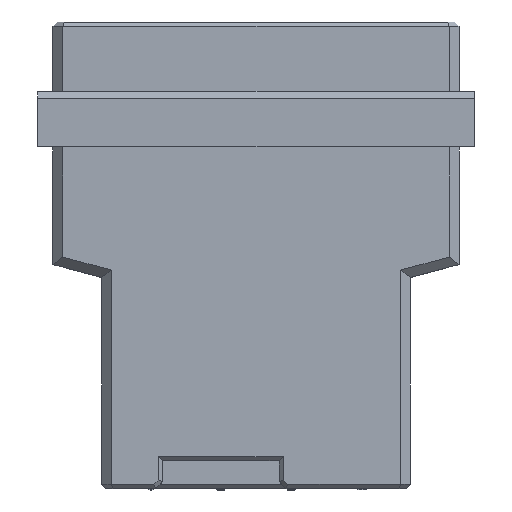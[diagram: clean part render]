
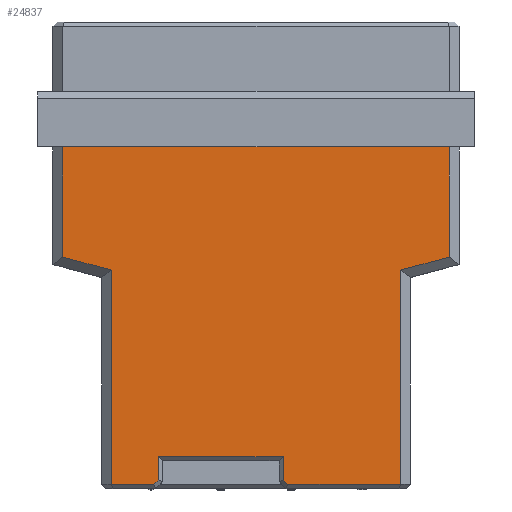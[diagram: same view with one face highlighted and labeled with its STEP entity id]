
A CAD part, front view. The second image highlights one B-rep face of the part: STEP entity #24837.
In plain terms, the highlighted planar face has unit normal (0, -1, 0).
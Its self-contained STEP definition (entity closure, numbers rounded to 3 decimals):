
#2 = VERTEX_POINT ( 'NONE', #6414 ) ;
#96 = DIRECTION ( 'NONE',  ( 1., 0., 0. ) ) ;
#494 = ORIENTED_EDGE ( 'NONE', *, *, #20353, .T. ) ;
#701 = VERTEX_POINT ( 'NONE', #19335 ) ;
#2053 = VECTOR ( 'NONE', #7473, 1000. ) ;
#2349 = VECTOR ( 'NONE', #3023, 1000. ) ;
#2479 = DIRECTION ( 'NONE',  ( 0.707, 0., 0.707 ) ) ;
#2509 = DIRECTION ( 'NONE',  ( 1., 0., 0. ) ) ;
#2623 = EDGE_CURVE ( 'NONE', #2, #18128, #16368, .T. ) ;
#2695 = ORIENTED_EDGE ( 'NONE', *, *, #16748, .T. ) ;
#3023 = DIRECTION ( 'NONE',  ( 0.966, 0., 0.259 ) ) ;
#3170 = CARTESIAN_POINT ( 'NONE',  ( -7.04, -4.675, -31.3 ) ) ;
#3365 = CARTESIAN_POINT ( 'NONE',  ( -7.04, -4.675, -18.4 ) ) ;
#3457 = ORIENTED_EDGE ( 'NONE', *, *, #13982, .T. ) ;
#3679 = VECTOR ( 'NONE', #20640, 1000. ) ;
#3700 = VECTOR ( 'NONE', #96, 1000. ) ;
#3766 = LINE ( 'NONE', #3365, #16739 ) ;
#3795 = DIRECTION ( 'NONE',  ( 0.707, 0., -0.707 ) ) ;
#3822 = VERTEX_POINT ( 'NONE', #24284 ) ;
#4316 = LINE ( 'NONE', #19350, #3700 ) ;
#4400 = CARTESIAN_POINT ( 'NONE',  ( 13.92, -4.675, -16.925 ) ) ;
#4789 = ORIENTED_EDGE ( 'NONE', *, *, #8034, .T. ) ;
#4828 = EDGE_CURVE ( 'NONE', #701, #14380, #8107, .T. ) ;
#4849 = ORIENTED_EDGE ( 'NONE', *, *, #4828, .T. ) ;
#5066 = LINE ( 'NONE', #11409, #20473 ) ;
#5112 = EDGE_CURVE ( 'NONE', #18128, #6537, #10506, .T. ) ;
#5616 = DIRECTION ( 'NONE',  ( 1., 0., 0. ) ) ;
#5864 = CARTESIAN_POINT ( 'NONE',  ( -14.62, -4.675, -33.3 ) ) ;
#6114 = ORIENTED_EDGE ( 'NONE', *, *, #10020, .T. ) ;
#6122 = VECTOR ( 'NONE', #2509, 1000. ) ;
#6208 = ORIENTED_EDGE ( 'NONE', *, *, #8626, .T. ) ;
#6411 = LINE ( 'NONE', #19704, #21793 ) ;
#6414 = CARTESIAN_POINT ( 'NONE',  ( 13.92, -4.675, -9. ) ) ;
#6429 = VECTOR ( 'NONE', #17649, 1000. ) ;
#6537 = VERTEX_POINT ( 'NONE', #22323 ) ;
#6769 = ORIENTED_EDGE ( 'NONE', *, *, #8718, .T. ) ;
#7205 = CARTESIAN_POINT ( 'NONE',  ( 1.96, -4.675, -31.3 ) ) ;
#7466 = CARTESIAN_POINT ( 'NONE',  ( -10.42, -4.675, -33.3 ) ) ;
#7473 = DIRECTION ( 'NONE',  ( 0., 0., -1. ) ) ;
#7532 = LINE ( 'NONE', #23379, #12642 ) ;
#8034 = EDGE_CURVE ( 'NONE', #8566, #8760, #13130, .T. ) ;
#8107 = LINE ( 'NONE', #18394, #2349 ) ;
#8566 = VERTEX_POINT ( 'NONE', #7466 ) ;
#8569 = VERTEX_POINT ( 'NONE', #7205 ) ;
#8626 = EDGE_CURVE ( 'NONE', #20106, #8569, #4316, .T. ) ;
#8718 = EDGE_CURVE ( 'NONE', #9473, #8566, #13403, .T. ) ;
#8760 = VERTEX_POINT ( 'NONE', #13862 ) ;
#9473 = VERTEX_POINT ( 'NONE', #11865 ) ;
#10020 = EDGE_CURVE ( 'NONE', #6537, #9473, #6411, .T. ) ;
#10506 = LINE ( 'NONE', #24262, #19580 ) ;
#10811 = DIRECTION ( 'NONE',  ( 0., 0., -1. ) ) ;
#11409 = CARTESIAN_POINT ( 'NONE',  ( 2.372, -4.675, -33.388 ) ) ;
#11458 = AXIS2_PLACEMENT_3D ( 'NONE', #20642, #22557, #16922 ) ;
#11857 = EDGE_CURVE ( 'NONE', #3822, #24829, #19996, .T. ) ;
#11865 = CARTESIAN_POINT ( 'NONE',  ( -10.42, -4.675, -17.863 ) ) ;
#12034 = VERTEX_POINT ( 'NONE', #12483 ) ;
#12119 = VERTEX_POINT ( 'NONE', #22562 ) ;
#12483 = CARTESIAN_POINT ( 'NONE',  ( -7.04, -4.675, -32.976 ) ) ;
#12642 = VECTOR ( 'NONE', #2479, 1000. ) ;
#13130 = LINE ( 'NONE', #5864, #23034 ) ;
#13311 = CARTESIAN_POINT ( 'NONE',  ( 13.92, -4.675, -18.4 ) ) ;
#13403 = LINE ( 'NONE', #15796, #6429 ) ;
#13862 = CARTESIAN_POINT ( 'NONE',  ( -7.364, -4.675, -33.3 ) ) ;
#13883 = LINE ( 'NONE', #13311, #16567 ) ;
#13982 = EDGE_CURVE ( 'NONE', #14380, #2, #13883, .T. ) ;
#13989 = FACE_OUTER_BOUND ( 'NONE', #20590, .T. ) ;
#14051 = ORIENTED_EDGE ( 'NONE', *, *, #2623, .T. ) ;
#14380 = VERTEX_POINT ( 'NONE', #4400 ) ;
#14472 = ORIENTED_EDGE ( 'NONE', *, *, #5112, .T. ) ;
#14660 = EDGE_CURVE ( 'NONE', #12119, #3822, #5066, .T. ) ;
#15356 = VECTOR ( 'NONE', #17544, 1000. ) ;
#15632 = ORIENTED_EDGE ( 'NONE', *, *, #21277, .T. ) ;
#15796 = CARTESIAN_POINT ( 'NONE',  ( -10.42, -4.675, -18.4 ) ) ;
#16368 = LINE ( 'NONE', #19038, #3679 ) ;
#16567 = VECTOR ( 'NONE', #16906, 1000. ) ;
#16739 = VECTOR ( 'NONE', #22591, 1000. ) ;
#16748 = EDGE_CURVE ( 'NONE', #12034, #20106, #3766, .T. ) ;
#16906 = DIRECTION ( 'NONE',  ( 0., 0., 1. ) ) ;
#16922 = DIRECTION ( 'NONE',  ( 0., 0., 1. ) ) ;
#17544 = DIRECTION ( 'NONE',  ( 0., 0., 1. ) ) ;
#17563 = ORIENTED_EDGE ( 'NONE', *, *, #14660, .T. ) ;
#17649 = DIRECTION ( 'NONE',  ( 0., 0., -1. ) ) ;
#17668 = DIRECTION ( 'NONE',  ( 0.966, 0., -0.259 ) ) ;
#18128 = VERTEX_POINT ( 'NONE', #24088 ) ;
#18364 = CARTESIAN_POINT ( 'NONE',  ( 10.42, -4.675, -33.3 ) ) ;
#18394 = CARTESIAN_POINT ( 'NONE',  ( -13.077, -4.675, -24.159 ) ) ;
#19038 = CARTESIAN_POINT ( 'NONE',  ( -14.62, -4.675, -9. ) ) ;
#19324 = CARTESIAN_POINT ( 'NONE',  ( 10.42, -4.675, -18.4 ) ) ;
#19335 = CARTESIAN_POINT ( 'NONE',  ( 10.42, -4.675, -17.863 ) ) ;
#19350 = CARTESIAN_POINT ( 'NONE',  ( -14.62, -4.675, -31.3 ) ) ;
#19580 = VECTOR ( 'NONE', #10811, 1000. ) ;
#19704 = CARTESIAN_POINT ( 'NONE',  ( -14.204, -4.675, -16.849 ) ) ;
#19996 = LINE ( 'NONE', #21828, #6122 ) ;
#20106 = VERTEX_POINT ( 'NONE', #3170 ) ;
#20353 = EDGE_CURVE ( 'NONE', #8760, #12034, #7532, .T. ) ;
#20473 = VECTOR ( 'NONE', #3795, 1000. ) ;
#20590 = EDGE_LOOP ( 'NONE', ( #6769, #4789, #494, #2695, #6208, #21541, #17563, #20618, #15632, #4849, #3457, #14051, #14472, #6114 ) ) ;
#20618 = ORIENTED_EDGE ( 'NONE', *, *, #11857, .T. ) ;
#20640 = DIRECTION ( 'NONE',  ( -1., 0., 0. ) ) ;
#20642 = CARTESIAN_POINT ( 'NONE',  ( -14.62, -4.675, -18.4 ) ) ;
#21277 = EDGE_CURVE ( 'NONE', #24829, #701, #21685, .T. ) ;
#21541 = ORIENTED_EDGE ( 'NONE', *, *, #21874, .T. ) ;
#21685 = LINE ( 'NONE', #19324, #15356 ) ;
#21793 = VECTOR ( 'NONE', #17668, 1000. ) ;
#21828 = CARTESIAN_POINT ( 'NONE',  ( -14.62, -4.675, -33.3 ) ) ;
#21874 = EDGE_CURVE ( 'NONE', #8569, #12119, #24036, .T. ) ;
#22312 = PLANE ( 'NONE',  #11458 ) ;
#22323 = CARTESIAN_POINT ( 'NONE',  ( -13.92, -4.675, -16.925 ) ) ;
#22557 = DIRECTION ( 'NONE',  ( 0., 1., 0. ) ) ;
#22562 = CARTESIAN_POINT ( 'NONE',  ( 1.96, -4.675, -32.976 ) ) ;
#22591 = DIRECTION ( 'NONE',  ( 0., 0., 1. ) ) ;
#22940 = CARTESIAN_POINT ( 'NONE',  ( 1.96, -4.675, -18.4 ) ) ;
#23034 = VECTOR ( 'NONE', #5616, 1000. ) ;
#23379 = CARTESIAN_POINT ( 'NONE',  ( -6.952, -4.675, -32.888 ) ) ;
#24036 = LINE ( 'NONE', #22940, #2053 ) ;
#24088 = CARTESIAN_POINT ( 'NONE',  ( -13.92, -4.675, -9. ) ) ;
#24262 = CARTESIAN_POINT ( 'NONE',  ( -13.92, -4.675, -18.4 ) ) ;
#24284 = CARTESIAN_POINT ( 'NONE',  ( 2.284, -4.675, -33.3 ) ) ;
#24829 = VERTEX_POINT ( 'NONE', #18364 ) ;
#24837 = ADVANCED_FACE ( 'NONE', ( #13989 ), #22312, .F. ) ;
